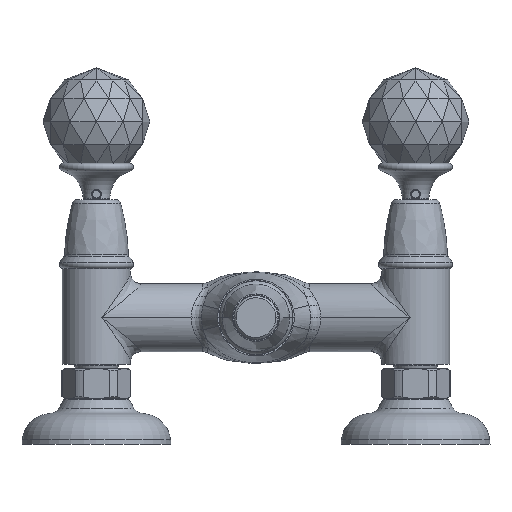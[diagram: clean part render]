
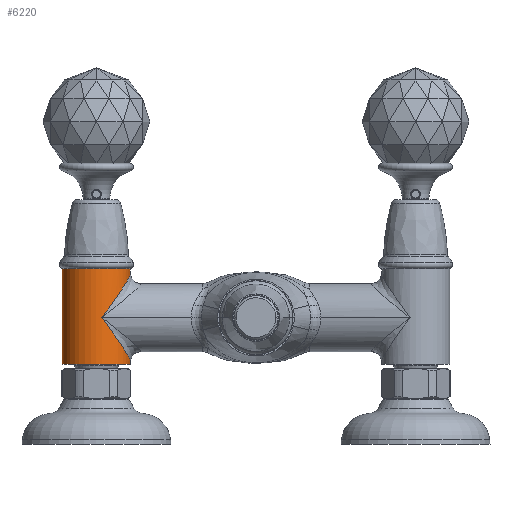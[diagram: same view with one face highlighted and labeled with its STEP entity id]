
A CAD part, front view. The second image highlights one B-rep face of the part: STEP entity #6220.
In plain terms, the highlighted cylindrical face has radius 16 mm (diameter 32 mm), a partial arc.
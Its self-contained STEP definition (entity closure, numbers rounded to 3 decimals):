
#322=CARTESIAN_POINT('',(-75.,0.,23.));
#323=DIRECTION('',(0.,0.,1.));
#324=DIRECTION('',(-1.,0.,0.));
#325=AXIS2_PLACEMENT_3D('',#322,#323,#324);
#327=CARTESIAN_POINT('',(-59.,0.,20.736));
#328=CARTESIAN_POINT('',(-59.,-0.137,
20.708));
#329=CARTESIAN_POINT('',(-59.004,-0.413,
20.646));
#330=CARTESIAN_POINT('',(-59.02,-0.829,
20.539));
#331=CARTESIAN_POINT('',(-59.047,-1.25,20.416));
#332=CARTESIAN_POINT('',(-59.086,-1.675,20.277));
#333=CARTESIAN_POINT('',(-59.137,-2.104,20.122));
#334=CARTESIAN_POINT('',(-59.2,-2.537,19.951));
#335=CARTESIAN_POINT('',(-59.277,-2.974,19.761));
#336=CARTESIAN_POINT('',(-59.367,-3.417,19.552));
#337=CARTESIAN_POINT('',(-59.471,-3.864,19.324));
#338=CARTESIAN_POINT('',(-59.591,-4.317,19.075));
#339=CARTESIAN_POINT('',(-59.726,-4.774,18.805));
#340=CARTESIAN_POINT('',(-59.878,-5.234,18.513));
#341=CARTESIAN_POINT('',(-60.047,-5.7,18.198));
#342=CARTESIAN_POINT('',(-60.234,-6.169,17.857));
#343=CARTESIAN_POINT('',(-60.441,-6.642,17.491));
#344=CARTESIAN_POINT('',(-60.667,-7.118,17.099));
#345=CARTESIAN_POINT('',(-60.915,-7.596,16.68));
#346=CARTESIAN_POINT('',(-61.184,-8.076,16.232));
#347=CARTESIAN_POINT('',(-61.476,-8.556,15.754));
#348=CARTESIAN_POINT('',(-61.791,-9.035,15.245));
#349=CARTESIAN_POINT('',(-62.131,-9.513,14.706));
#350=CARTESIAN_POINT('',(-62.496,-9.989,14.134));
#351=CARTESIAN_POINT('',(-62.887,-10.46,13.53));
#352=CARTESIAN_POINT('',(-63.304,-10.924,12.893));
#353=CARTESIAN_POINT('',(-63.748,-11.381,12.223));
#354=CARTESIAN_POINT('',(-64.218,-11.828,11.52));
#355=CARTESIAN_POINT('',(-64.716,-12.263,10.785));
#356=CARTESIAN_POINT('',(-65.24,-12.685,10.019));
#357=CARTESIAN_POINT('',(-65.791,-13.09,9.221));
#358=CARTESIAN_POINT('',(-66.367,-13.477,8.394));
#359=CARTESIAN_POINT('',(-66.968,-13.844,7.539));
#360=CARTESIAN_POINT('',(-67.593,-14.188,6.657));
#361=CARTESIAN_POINT('',(-68.24,-14.508,5.753));
#362=CARTESIAN_POINT('',(-68.907,-14.801,4.827));
#363=CARTESIAN_POINT('',(-69.593,-15.065,3.884));
#364=CARTESIAN_POINT('',(-70.295,-15.298,2.926));
#365=CARTESIAN_POINT('',(-71.01,-15.5,1.957));
#366=CARTESIAN_POINT('',(-71.736,-15.67,
0.98));
#367=CARTESIAN_POINT('',(-72.226,-15.76,
0.327));
#368=CARTESIAN_POINT('',(-72.472,-15.799,0.));
#370=CARTESIAN_POINT('',(-72.472,-15.799,0.));
#371=CARTESIAN_POINT('',(-72.226,-15.76,
-0.327));
#372=CARTESIAN_POINT('',(-71.736,-15.67,
-0.98));
#373=CARTESIAN_POINT('',(-71.01,-15.5,
-1.957));
#374=CARTESIAN_POINT('',(-70.295,-15.298,
-2.926));
#375=CARTESIAN_POINT('',(-69.593,-15.065,
-3.884));
#376=CARTESIAN_POINT('',(-68.907,-14.801,
-4.827));
#377=CARTESIAN_POINT('',(-68.24,-14.508,
-5.753));
#378=CARTESIAN_POINT('',(-67.593,-14.188,
-6.657));
#379=CARTESIAN_POINT('',(-66.968,-13.844,
-7.539));
#380=CARTESIAN_POINT('',(-66.367,-13.477,
-8.394));
#381=CARTESIAN_POINT('',(-65.791,-13.09,
-9.221));
#382=CARTESIAN_POINT('',(-65.24,-12.685,
-10.019));
#383=CARTESIAN_POINT('',(-64.716,-12.263,
-10.785));
#384=CARTESIAN_POINT('',(-64.218,-11.828,
-11.52));
#385=CARTESIAN_POINT('',(-63.748,-11.381,
-12.223));
#386=CARTESIAN_POINT('',(-63.304,-10.924,
-12.893));
#387=CARTESIAN_POINT('',(-62.887,-10.46,
-13.53));
#388=CARTESIAN_POINT('',(-62.496,-9.989,
-14.134));
#389=CARTESIAN_POINT('',(-62.131,-9.514,
-14.706));
#390=CARTESIAN_POINT('',(-61.791,-9.035,
-15.245));
#391=CARTESIAN_POINT('',(-61.476,-8.556,
-15.754));
#392=CARTESIAN_POINT('',(-61.184,-8.076,
-16.232));
#393=CARTESIAN_POINT('',(-60.915,-7.596,
-16.68));
#394=CARTESIAN_POINT('',(-60.667,-7.118,
-17.099));
#395=CARTESIAN_POINT('',(-60.441,-6.642,
-17.491));
#396=CARTESIAN_POINT('',(-60.234,-6.169,
-17.857));
#397=CARTESIAN_POINT('',(-60.047,-5.7,
-18.198));
#398=CARTESIAN_POINT('',(-59.878,-5.235,
-18.513));
#399=CARTESIAN_POINT('',(-59.726,-4.774,
-18.805));
#400=CARTESIAN_POINT('',(-59.591,-4.317,
-19.075));
#401=CARTESIAN_POINT('',(-59.471,-3.864,
-19.324));
#402=CARTESIAN_POINT('',(-59.367,-3.417,
-19.552));
#403=CARTESIAN_POINT('',(-59.277,-2.974,
-19.761));
#404=CARTESIAN_POINT('',(-59.2,-2.537,
-19.95));
#405=CARTESIAN_POINT('',(-59.137,-2.104,
-20.122));
#406=CARTESIAN_POINT('',(-59.086,-1.675,
-20.277));
#407=CARTESIAN_POINT('',(-59.047,-1.25,
-20.416));
#408=CARTESIAN_POINT('',(-59.02,-0.829,
-20.539));
#409=CARTESIAN_POINT('',(-59.004,-0.413,
-20.646));
#410=CARTESIAN_POINT('',(-59.,-0.137,
-20.708));
#411=CARTESIAN_POINT('',(-59.,0.,
-20.736));
#413=DIRECTION('',(0.,0.,1.));
#414=VECTOR('',#413,45.);
#415=CARTESIAN_POINT('',(-91.,0.,-22.));
#416=LINE('',#415,#414);
#422=DIRECTION('',(0.,0.,1.));
#423=VECTOR('',#422,1.264);
#424=CARTESIAN_POINT('',(-59.,0.,-22.));
#425=LINE('',#424,#423);
#426=CARTESIAN_POINT('',(-59.,0.,
-20.736));
#537=DIRECTION('',(0.,0.,1.));
#538=VECTOR('',#537,2.264);
#539=CARTESIAN_POINT('',(-59.,0.,20.736));
#540=LINE('',#539,#538);
#541=CARTESIAN_POINT('',(-75.,0.,-22.));
#542=DIRECTION('',(0.,0.,1.));
#543=DIRECTION('',(-1.,0.,0.));
#544=AXIS2_PLACEMENT_3D('',#541,#542,#543);
#5318=CARTESIAN_POINT('',(-91.,0.,-22.));
#5319=CARTESIAN_POINT('',(-59.,0.,-22.));
#5320=VERTEX_POINT('',#5318);
#5321=VERTEX_POINT('',#5319);
#5358=CARTESIAN_POINT('',(-91.,0.,23.));
#5359=CARTESIAN_POINT('',(-59.,0.,23.));
#5360=VERTEX_POINT('',#5358);
#5361=VERTEX_POINT('',#5359);
#5368=VERTEX_POINT('',#426);
#5369=VERTEX_POINT('',#370);
#5371=VERTEX_POINT('',#327);
#6200=CARTESIAN_POINT('',(-75.,0.,-22.));
#6201=DIRECTION('',(0.,0.,1.));
#6202=DIRECTION('',(-1.,0.,0.));
#6203=AXIS2_PLACEMENT_3D('',#6200,#6201,#6202);
#6204=CYLINDRICAL_SURFACE('',#6203,16.);
#6205=ORIENTED_EDGE('',*,*,#6188,.T.);
#6207=ORIENTED_EDGE('',*,*,#6206,.F.);
#6209=ORIENTED_EDGE('',*,*,#6208,.T.);
#6211=ORIENTED_EDGE('',*,*,#6210,.T.);
#6213=ORIENTED_EDGE('',*,*,#6212,.F.);
#6215=ORIENTED_EDGE('',*,*,#6214,.F.);
#6217=ORIENTED_EDGE('',*,*,#6216,.T.);
#6218=EDGE_LOOP('',(#6205,#6207,#6209,#6211,#6213,#6215,#6217));
#6219=FACE_OUTER_BOUND('',#6218,.F.);
#6220=ADVANCED_FACE('',(#6219),#6204,.T.);
#326=CIRCLE('',#325,16.);
#369=B_SPLINE_CURVE_WITH_KNOTS('',3,(#327,#328,#329,#330,#331,#332,#333,#334,
#335,#336,#337,#338,#339,#340,#341,#342,#343,#344,#345,#346,#347,#348,#349,#350,
#351,#352,#353,#354,#355,#356,#357,#358,#359,#360,#361,#362,#363,#364,#365,#366,
#367,#368),.UNSPECIFIED.,.F.,.F.,(4,1,1,1,1,1,1,1,1,1,1,1,1,1,1,1,1,1,1,1,1,1,1,
1,1,1,1,1,1,1,1,1,1,1,1,1,1,1,1,4),(0.,0.026,0.051,
0.077,0.103,0.128,0.154,
0.179,0.205,0.231,0.256,
0.282,0.308,0.333,0.359,
0.385,0.41,0.436,0.462,
0.487,0.513,0.538,0.564,
0.59,0.615,0.641,0.667,
0.692,0.718,0.744,0.769,
0.795,0.821,0.846,0.872,
0.897,0.923,0.949,0.974,1.),
.UNSPECIFIED.);
#412=B_SPLINE_CURVE_WITH_KNOTS('',3,(#370,#371,#372,#373,#374,#375,#376,#377,
#378,#379,#380,#381,#382,#383,#384,#385,#386,#387,#388,#389,#390,#391,#392,#393,
#394,#395,#396,#397,#398,#399,#400,#401,#402,#403,#404,#405,#406,#407,#408,#409,
#410,#411),.UNSPECIFIED.,.F.,.F.,(4,1,1,1,1,1,1,1,1,1,1,1,1,1,1,1,1,1,1,1,1,1,1,
1,1,1,1,1,1,1,1,1,1,1,1,1,1,1,1,4),(0.,0.026,0.051,
0.077,0.103,0.128,0.154,
0.179,0.205,0.231,0.256,
0.282,0.308,0.333,0.359,
0.385,0.41,0.436,0.462,
0.487,0.513,0.538,0.564,
0.59,0.615,0.641,0.667,
0.692,0.718,0.744,0.769,
0.795,0.821,0.846,0.872,
0.897,0.923,0.949,0.974,1.),
.UNSPECIFIED.);
#545=CIRCLE('',#544,16.);
#6188=EDGE_CURVE('',#5360,#5361,#326,.T.);
#6206=EDGE_CURVE('',#5371,#5361,#540,.T.);
#6208=EDGE_CURVE('',#5371,#5369,#369,.T.);
#6210=EDGE_CURVE('',#5369,#5368,#412,.T.);
#6212=EDGE_CURVE('',#5321,#5368,#425,.T.);
#6214=EDGE_CURVE('',#5320,#5321,#545,.T.);
#6216=EDGE_CURVE('',#5320,#5360,#416,.T.);
